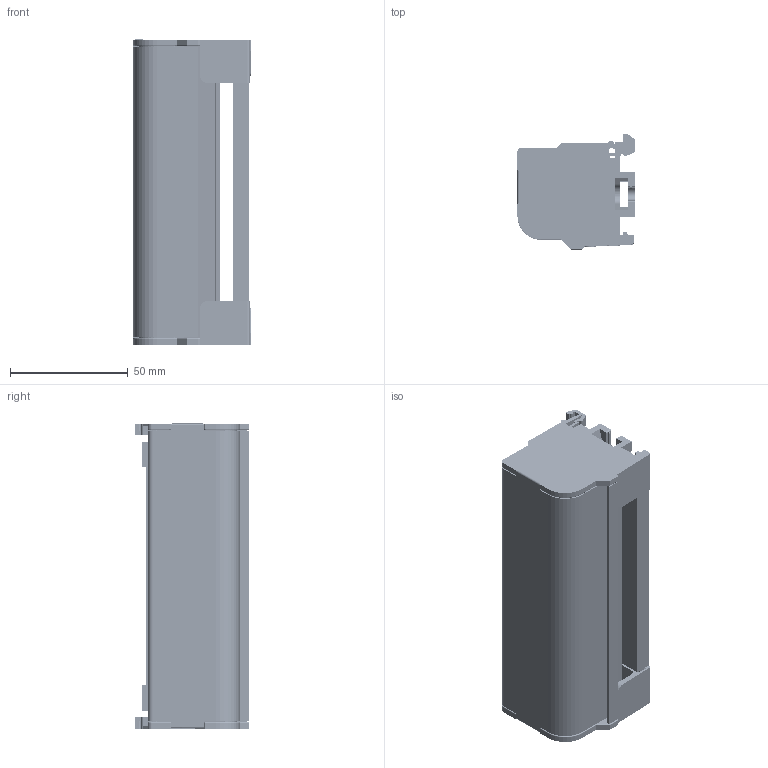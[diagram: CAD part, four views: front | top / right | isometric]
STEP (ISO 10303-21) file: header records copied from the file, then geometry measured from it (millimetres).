
FILE_DESCRIPTION(/* description */ (''),/* implementation_level */ '2;1');
FILE_NAME(/* name */ 'x_stp.stp',/* time_stamp */ '2021-12-02T12:44:00+08:00',/* author */ (''),/* organization */ (''),/* preprocessor_version */ 'ST-DEVELOPER v16',/* originating_system */ 'SIEMENS PLM Software NX 10.0',/* authorisation */ '');
FILE_SCHEMA (('AUTOMOTIVE_DESIGN { 1 0 10303 214 3 1 1 1 }'));
Products named in the file (1): Admi2FB02F8Dgxub
Bounding box: 49.8 x 48.7 x 129.55 mm (x, y, z)
Volume: 62982.9 mm3; surface area: 82340.1 mm2
Topology: 38 solids, 38 shells, 2148 faces, 5734 edges, 3716 vertices
Faces by surface type: plane 1082, cylinder 494, bspline 324, cone 120, torus 102, sphere 26
Full cylindrical faces by diameter (mm): 5.2 x26, 6.8 x30, 7.6 x4, 8.6 x4
Entity records: 279756 total; most frequent: CARTESIAN_POINT 230692, ORIENTED_EDGE 10924, DIRECTION 8340, EDGE_CURVE 5462, VERTEX_POINT 3624, AXIS2_PLACEMENT_3D 2808, LINE 2724, VECTOR 2724
